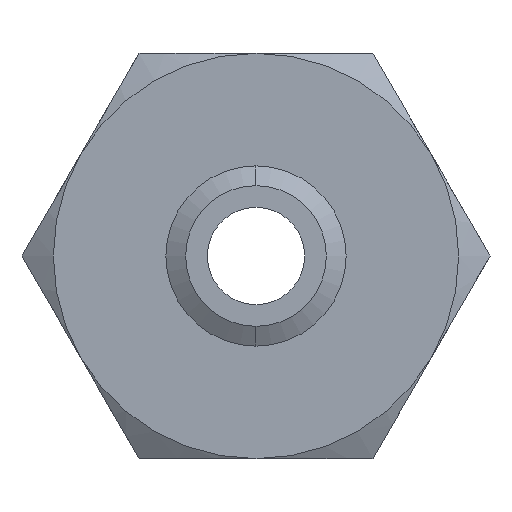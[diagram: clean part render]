
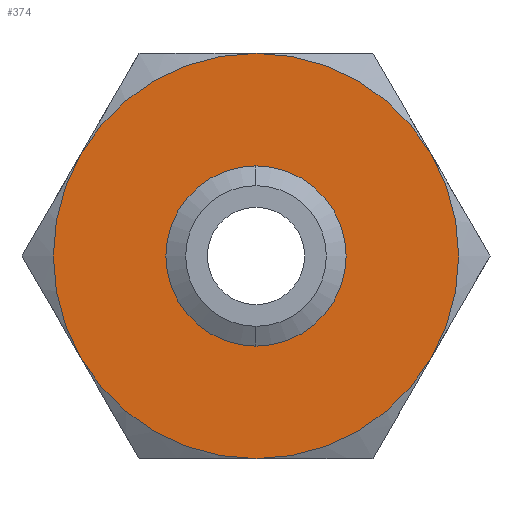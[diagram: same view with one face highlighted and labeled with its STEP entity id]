
A CAD part, front view. The second image highlights one B-rep face of the part: STEP entity #374.
In plain terms, the highlighted planar face has unit normal (0, -1, 0).
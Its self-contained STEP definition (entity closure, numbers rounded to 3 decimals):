
#23 = EDGE_CURVE ( 'NONE', #24, #25, #479, .T. ) ;
#24 = VERTEX_POINT ( 'NONE', #536 ) ;
#25 = VERTEX_POINT ( 'NONE', #535 ) ;
#319 = ORIENTED_EDGE ( 'NONE', *, *, #473, .F. ) ;
#357 = ORIENTED_EDGE ( 'NONE', *, *, #475, .F. ) ;
#367 = VERTEX_POINT ( 'NONE', #1165 ) ;
#368 = VERTEX_POINT ( 'NONE', #1161 ) ;
#369 = EDGE_CURVE ( 'NONE', #368, #367, #1159, .T. ) ;
#370 = ORIENTED_EDGE ( 'NONE', *, *, #369, .F. ) ;
#374 = ADVANCED_FACE ( 'NONE', ( #1151, #1150 ), #1149, .F. ) ;
#375 = EDGE_LOOP ( 'NONE', ( #370, #319, #428, #431, #434, #437 ) ) ;
#428 = ORIENTED_EDGE ( 'NONE', *, *, #429, .F. ) ;
#429 = EDGE_CURVE ( 'NONE', #430, #474, #1293, .T. ) ;
#430 = VERTEX_POINT ( 'NONE', #1288 ) ;
#431 = ORIENTED_EDGE ( 'NONE', *, *, #432, .F. ) ;
#432 = EDGE_CURVE ( 'NONE', #433, #430, #1286, .T. ) ;
#433 = VERTEX_POINT ( 'NONE', #1287 ) ;
#434 = ORIENTED_EDGE ( 'NONE', *, *, #435, .F. ) ;
#435 = EDGE_CURVE ( 'NONE', #436, #433, #1281, .T. ) ;
#436 = VERTEX_POINT ( 'NONE', #1276 ) ;
#437 = ORIENTED_EDGE ( 'NONE', *, *, #438, .F. ) ;
#438 = EDGE_CURVE ( 'NONE', #367, #436, #1275, .T. ) ;
#439 = EDGE_LOOP ( 'NONE', ( #440, #357 ) ) ;
#440 = ORIENTED_EDGE ( 'NONE', *, *, #23, .F. ) ;
#473 = EDGE_CURVE ( 'NONE', #474, #368, #1358, .T. ) ;
#474 = VERTEX_POINT ( 'NONE', #1410 ) ;
#475 = EDGE_CURVE ( 'NONE', #25, #24, #1404, .T. ) ;
#477 = CARTESIAN_POINT ( 'NONE',  ( 0., 0., 0. ) ) ;
#478 = AXIS2_PLACEMENT_3D ( 'NONE', #477, #538, #537 ) ;
#479 = CIRCLE ( 'NONE', #478, 8.673 ) ;
#535 = CARTESIAN_POINT ( 'NONE',  ( 0., 0., 8.673 ) ) ;
#536 = CARTESIAN_POINT ( 'NONE',  ( 0., 0., -8.673 ) ) ;
#537 = DIRECTION ( 'NONE',  ( 0., 0., -1. ) ) ;
#538 = DIRECTION ( 'NONE',  ( 0., -1., 0. ) ) ;
#1144 = DIRECTION ( 'NONE',  ( 0., 0., 1. ) ) ;
#1145 = DIRECTION ( 'NONE',  ( 0., 1., 0. ) ) ;
#1147 = CARTESIAN_POINT ( 'NONE',  ( 14.434, 0., -25. ) ) ;
#1148 = AXIS2_PLACEMENT_3D ( 'NONE', #1147, #1145, #1144 ) ;
#1149 = PLANE ( 'NONE',  #1148 ) ;
#1150 = FACE_BOUND ( 'NONE', #439, .T. ) ;
#1151 = FACE_OUTER_BOUND ( 'NONE', #375, .T. ) ;
#1155 = DIRECTION ( 'NONE',  ( 0., 0., 1. ) ) ;
#1156 = DIRECTION ( 'NONE',  ( 0., 1., 0. ) ) ;
#1157 = CARTESIAN_POINT ( 'NONE',  ( 0., 0., 0. ) ) ;
#1158 = AXIS2_PLACEMENT_3D ( 'NONE', #1157, #1156, #1155 ) ;
#1159 = CIRCLE ( 'NONE', #1158, 25. ) ;
#1161 = CARTESIAN_POINT ( 'NONE',  ( 0., 0., 25. ) ) ;
#1165 = CARTESIAN_POINT ( 'NONE',  ( 21.651, 0., 12.5 ) ) ;
#1271 = DIRECTION ( 'NONE',  ( 0., 0., 1. ) ) ;
#1272 = DIRECTION ( 'NONE',  ( 0., 1., 0. ) ) ;
#1273 = CARTESIAN_POINT ( 'NONE',  ( 0., 0., 0. ) ) ;
#1274 = AXIS2_PLACEMENT_3D ( 'NONE', #1273, #1272, #1271 ) ;
#1275 = CIRCLE ( 'NONE', #1274, 25. ) ;
#1276 = CARTESIAN_POINT ( 'NONE',  ( 21.651, 0., -12.5 ) ) ;
#1277 = DIRECTION ( 'NONE',  ( 0., 0., 1. ) ) ;
#1278 = DIRECTION ( 'NONE',  ( 0., 1., 0. ) ) ;
#1279 = CARTESIAN_POINT ( 'NONE',  ( 0., 0., 0. ) ) ;
#1280 = AXIS2_PLACEMENT_3D ( 'NONE', #1279, #1278, #1277 ) ;
#1281 = CIRCLE ( 'NONE', #1280, 25. ) ;
#1282 = DIRECTION ( 'NONE',  ( 0., 0., 1. ) ) ;
#1283 = DIRECTION ( 'NONE',  ( 0., 1., 0. ) ) ;
#1284 = CARTESIAN_POINT ( 'NONE',  ( 0., 0., 0. ) ) ;
#1285 = AXIS2_PLACEMENT_3D ( 'NONE', #1284, #1283, #1282 ) ;
#1286 = CIRCLE ( 'NONE', #1285, 25. ) ;
#1287 = CARTESIAN_POINT ( 'NONE',  ( 0., 0., -25. ) ) ;
#1288 = CARTESIAN_POINT ( 'NONE',  ( -21.651, 0., -12.5 ) ) ;
#1289 = DIRECTION ( 'NONE',  ( 0., 0., 1. ) ) ;
#1290 = DIRECTION ( 'NONE',  ( 0., 1., 0. ) ) ;
#1291 = CARTESIAN_POINT ( 'NONE',  ( 0., 0., 0. ) ) ;
#1292 = AXIS2_PLACEMENT_3D ( 'NONE', #1291, #1290, #1289 ) ;
#1293 = CIRCLE ( 'NONE', #1292, 25. ) ;
#1358 = CIRCLE ( 'NONE', #1409, 25. ) ;
#1400 = DIRECTION ( 'NONE',  ( 0., 0., -1. ) ) ;
#1401 = DIRECTION ( 'NONE',  ( 0., -1., 0. ) ) ;
#1402 = CARTESIAN_POINT ( 'NONE',  ( 0., 0., 0. ) ) ;
#1403 = AXIS2_PLACEMENT_3D ( 'NONE', #1402, #1401, #1400 ) ;
#1404 = CIRCLE ( 'NONE', #1403, 8.673 ) ;
#1406 = DIRECTION ( 'NONE',  ( 0., 0., 1. ) ) ;
#1407 = DIRECTION ( 'NONE',  ( 0., 1., 0. ) ) ;
#1408 = CARTESIAN_POINT ( 'NONE',  ( 0., 0., 0. ) ) ;
#1409 = AXIS2_PLACEMENT_3D ( 'NONE', #1408, #1407, #1406 ) ;
#1410 = CARTESIAN_POINT ( 'NONE',  ( -21.651, 0., 12.5 ) ) ;
